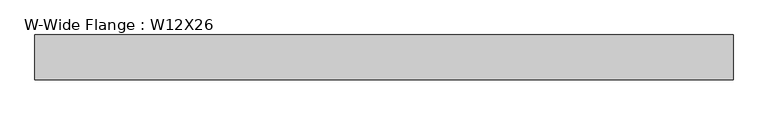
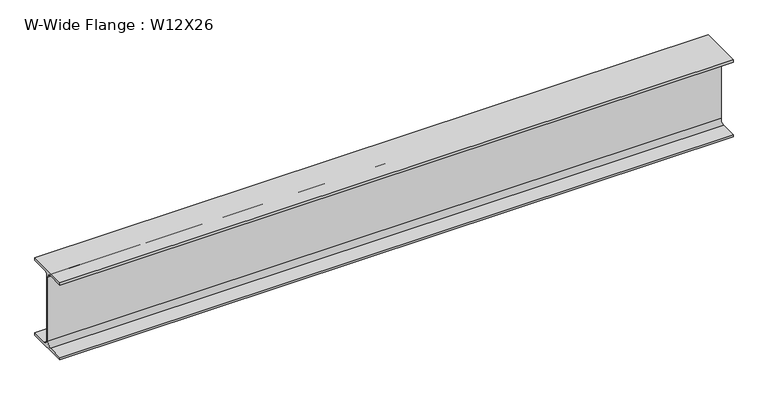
"""IFC4 building model written with IfcOpenShell, lengths in millimetres: beam geometry, W-Wide Flange : W12X26."""

from ifc_helpers import new_model, si_unit, point, frame, frame_2d, origin, place, context, project, spatial, polyline, circle_curve, trimmed, segment, composite_curve, outline, extrude, source, transform, mapped, element, save


def w_wide_flange_w12x26_a858fbf7(model_context):
    return source(origin(), model_context, "Body", "SweptSolid", [
        extrude(outline(composite_curve([segment(polyline([(-82.4011719, -145.5539063), (-20.2902344, -145.5539063)]), True, "CONTINUOUS"), segment(trimmed(circle_curve(frame_2d((-20.2902344, -128.190625)), 17.3632812), [point((-20.2902344, -145.5539063))], [point((-2.9269531, -128.190625))], True, "CARTESIAN"), True, "CONTINUOUS"), segment(polyline([(-2.9269531, -128.190625), (-2.9269531, 128.190625)]), True, "CONTINUOUS"), segment(trimmed(circle_curve(frame_2d((-20.2902344, 128.190625)), 17.3632812), [point((-2.9269531, 128.190625))], [point((-20.2902344, 145.5539062))], True, "CARTESIAN"), True, "CONTINUOUS"), segment(polyline([(-20.2902344, 145.5539062), (-82.4011719, 145.5539062), (-82.4011719, 155.178125), (82.4011719, 155.178125), (82.4011719, 145.5539062), (20.2902344, 145.5539062)]), True, "CONTINUOUS"), segment(trimmed(circle_curve(frame_2d((20.2902344, 128.190625)), 17.3632812), [point((20.2902344, 145.5539062))], [point((2.9269531, 128.190625))], True, "CARTESIAN"), True, "CONTINUOUS"), segment(polyline([(2.9269531, 128.190625), (2.9269531, -128.190625)]), True, "CONTINUOUS"), segment(trimmed(circle_curve(frame_2d((20.2902344, -128.190625)), 17.3632812), [point((2.9269531, -128.190625))], [point((20.2902344, -145.5539063))], True, "CARTESIAN"), True, "CONTINUOUS"), segment(polyline([(20.2902344, -145.5539063), (82.4011719, -145.5539063), (82.4011719, -155.178125), (-82.4011719, -155.178125), (-82.4011719, -145.5539063)]), True, "CONTINUOUS")], self_intersect=False)), frame((-1282.7, 0.0, 0.0), z_axis=(1.0, 0.0, 0.0), x_axis=(0.0, 1.0, 0.0)), (0.0, 0.0, 1.0), 2559.05),
    ])


if __name__ == "__main__":
    model = new_model("IFC4")
    model_context = context("Model", 3, world=origin())
    ifc_project = project(units=[si_unit("LENGTHUNIT", "METRE", prefix="MILLI")], contexts=[model_context])
    site = spatial("IfcSite", under=ifc_project)
    building = spatial("IfcBuilding", under=site)
    placement = place(None, origin())
    w_wide_flange_w12x26_shape = w_wide_flange_w12x26_a858fbf7(model_context)
    element("IfcBeam", 1, ObjectType="W-Wide Flange : W12X26", at=placement, inside=building, context=model_context, shape_type="MappedRepresentation", body=[
        mapped(w_wide_flange_w12x26_shape, transform((0.0, 0.0, 0.0), x_axis=(1.0, 0.0, 0.0), y_axis=(0.0, 1.0, 0.0), z_axis=(0.0, 0.0, 1.0))),
    ])
    save(model, "model.ifc")
